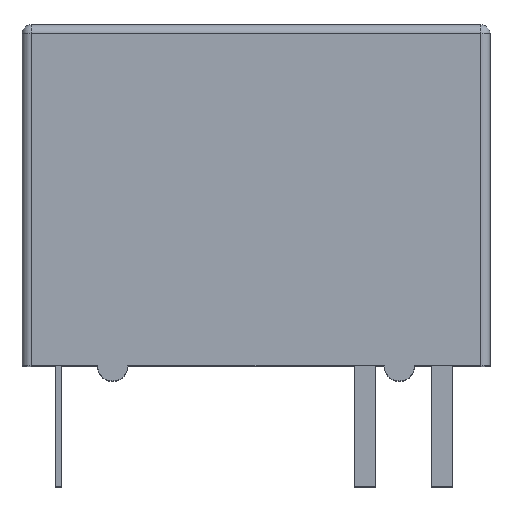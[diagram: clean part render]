
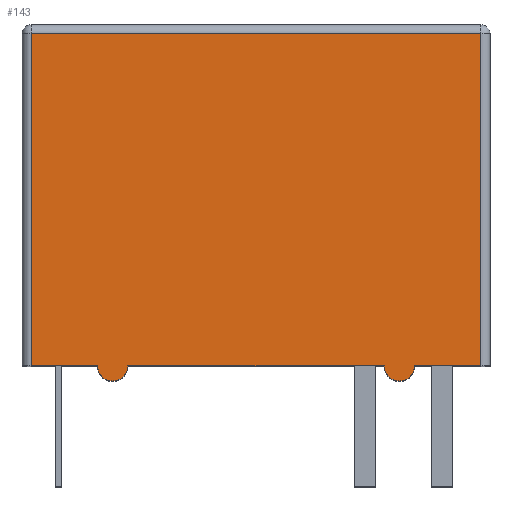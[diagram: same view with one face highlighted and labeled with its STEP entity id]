
A CAD part, top view. The second image highlights one B-rep face of the part: STEP entity #143.
In plain terms, the highlighted planar face has unit normal (0, 0, 1).
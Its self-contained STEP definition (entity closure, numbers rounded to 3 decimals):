
#4 = ORIENTED_EDGE ( 'NONE', *, *, #2620, .T. ) ;
#22 = CARTESIAN_POINT ( 'NONE',  ( 7.45, 11.5, 5.25 ) ) ;
#28 = DIRECTION ( 'NONE',  ( -1., 0., 0. ) ) ;
#64 = AXIS2_PLACEMENT_3D ( 'NONE', #260, #272, #2337 ) ;
#142 = ORIENTED_EDGE ( 'NONE', *, *, #1917, .T. ) ;
#143 = ADVANCED_FACE ( 'NONE', ( #617 ), #437, .F. ) ;
#149 = EDGE_CURVE ( 'NONE', #1463, #2537, #2505, .T. ) ;
#225 = CARTESIAN_POINT ( 'NONE',  ( 4.75, 0.5, 5.25 ) ) ;
#260 = CARTESIAN_POINT ( 'NONE',  ( -4.75, 0.5, 5.25 ) ) ;
#272 = DIRECTION ( 'NONE',  ( 0., 0., 1. ) ) ;
#329 = ORIENTED_EDGE ( 'NONE', *, *, #1837, .T. ) ;
#330 = LINE ( 'NONE', #503, #1566 ) ;
#339 = VECTOR ( 'NONE', #464, 1000. ) ;
#353 = LINE ( 'NONE', #2453, #1922 ) ;
#437 = PLANE ( 'NONE',  #2281 ) ;
#445 = CARTESIAN_POINT ( 'NONE',  ( 4.25, 0.5, 5.25 ) ) ;
#464 = DIRECTION ( 'NONE',  ( 1., 0., 0. ) ) ;
#503 = CARTESIAN_POINT ( 'NONE',  ( -7.75, 11.5, 5.25 ) ) ;
#606 = EDGE_CURVE ( 'NONE', #2353, #2731, #1168, .T. ) ;
#617 = FACE_OUTER_BOUND ( 'NONE', #1402, .T. ) ;
#666 = DIRECTION ( 'NONE',  ( 0., 0., -1. ) ) ;
#667 = CARTESIAN_POINT ( 'NONE',  ( -4.25, 0.5, 5.25 ) ) ;
#738 = VECTOR ( 'NONE', #1835, 1000. ) ;
#834 = DIRECTION ( 'NONE',  ( -1., 0., 0. ) ) ;
#923 = ORIENTED_EDGE ( 'NONE', *, *, #606, .T. ) ;
#972 = CARTESIAN_POINT ( 'NONE',  ( -7.45, 0.5, 5.25 ) ) ;
#1020 = EDGE_CURVE ( 'NONE', #2264, #1463, #1032, .T. ) ;
#1022 = ORIENTED_EDGE ( 'NONE', *, *, #149, .T. ) ;
#1032 = CIRCLE ( 'NONE', #64, 0.5 ) ;
#1049 = VECTOR ( 'NONE', #2336, 1000. ) ;
#1168 = LINE ( 'NONE', #2449, #2056 ) ;
#1225 = LINE ( 'NONE', #2263, #738 ) ;
#1251 = ORIENTED_EDGE ( 'NONE', *, *, #1671, .T. ) ;
#1264 = CARTESIAN_POINT ( 'NONE',  ( 5.25, 0.5, 5.25 ) ) ;
#1275 = VERTEX_POINT ( 'NONE', #972 ) ;
#1327 = EDGE_CURVE ( 'NONE', #1275, #2264, #353, .T. ) ;
#1402 = EDGE_LOOP ( 'NONE', ( #923, #142, #1251, #329, #2138, #2611, #1022, #4 ) ) ;
#1463 = VERTEX_POINT ( 'NONE', #667 ) ;
#1562 = DIRECTION ( 'NONE',  ( -1., 0., 0. ) ) ;
#1566 = VECTOR ( 'NONE', #1562, 1000. ) ;
#1605 = CARTESIAN_POINT ( 'NONE',  ( -7.45, 11.5, 5.25 ) ) ;
#1608 = VERTEX_POINT ( 'NONE', #22 ) ;
#1671 = EDGE_CURVE ( 'NONE', #1608, #2231, #330, .T. ) ;
#1730 = CIRCLE ( 'NONE', #2736, 0.5 ) ;
#1831 = CARTESIAN_POINT ( 'NONE',  ( -5.25, 0.5, 5.25 ) ) ;
#1835 = DIRECTION ( 'NONE',  ( 0., -1., 0. ) ) ;
#1837 = EDGE_CURVE ( 'NONE', #2231, #1275, #1225, .T. ) ;
#1917 = EDGE_CURVE ( 'NONE', #2731, #1608, #2552, .T. ) ;
#1922 = VECTOR ( 'NONE', #2035, 1000. ) ;
#2035 = DIRECTION ( 'NONE',  ( 1., 0., 0. ) ) ;
#2056 = VECTOR ( 'NONE', #2691, 1000. ) ;
#2106 = CARTESIAN_POINT ( 'NONE',  ( -7.75, 42.322, 5.25 ) ) ;
#2138 = ORIENTED_EDGE ( 'NONE', *, *, #1327, .T. ) ;
#2231 = VERTEX_POINT ( 'NONE', #1605 ) ;
#2263 = CARTESIAN_POINT ( 'NONE',  ( -7.45, 42.322, 5.25 ) ) ;
#2264 = VERTEX_POINT ( 'NONE', #1831 ) ;
#2281 = AXIS2_PLACEMENT_3D ( 'NONE', #2106, #666, #28 ) ;
#2303 = DIRECTION ( 'NONE',  ( 0., 0., 1. ) ) ;
#2336 = DIRECTION ( 'NONE',  ( 0., 1., 0. ) ) ;
#2337 = DIRECTION ( 'NONE',  ( 1., 0., 0. ) ) ;
#2353 = VERTEX_POINT ( 'NONE', #1264 ) ;
#2359 = CARTESIAN_POINT ( 'NONE',  ( 7.45, 0.5, 5.25 ) ) ;
#2362 = CARTESIAN_POINT ( 'NONE',  ( 7.45, 42.322, 5.25 ) ) ;
#2449 = CARTESIAN_POINT ( 'NONE',  ( -7.75, 0.5, 5.25 ) ) ;
#2453 = CARTESIAN_POINT ( 'NONE',  ( -7.75, 0.5, 5.25 ) ) ;
#2505 = LINE ( 'NONE', #2737, #339 ) ;
#2537 = VERTEX_POINT ( 'NONE', #445 ) ;
#2552 = LINE ( 'NONE', #2362, #1049 ) ;
#2611 = ORIENTED_EDGE ( 'NONE', *, *, #1020, .T. ) ;
#2620 = EDGE_CURVE ( 'NONE', #2537, #2353, #1730, .T. ) ;
#2691 = DIRECTION ( 'NONE',  ( 1., 0., 0. ) ) ;
#2731 = VERTEX_POINT ( 'NONE', #2359 ) ;
#2736 = AXIS2_PLACEMENT_3D ( 'NONE', #225, #2303, #834 ) ;
#2737 = CARTESIAN_POINT ( 'NONE',  ( -7.75, 0.5, 5.25 ) ) ;
